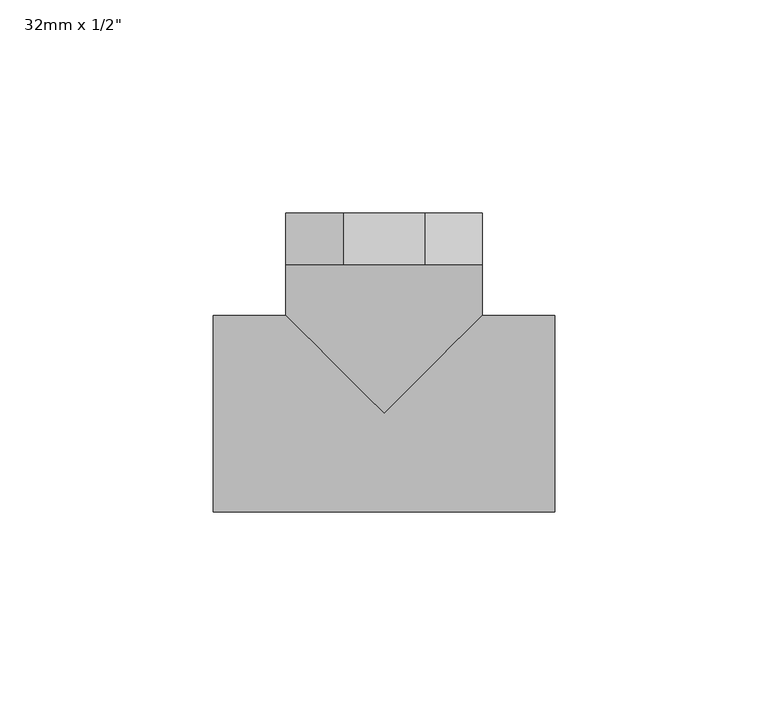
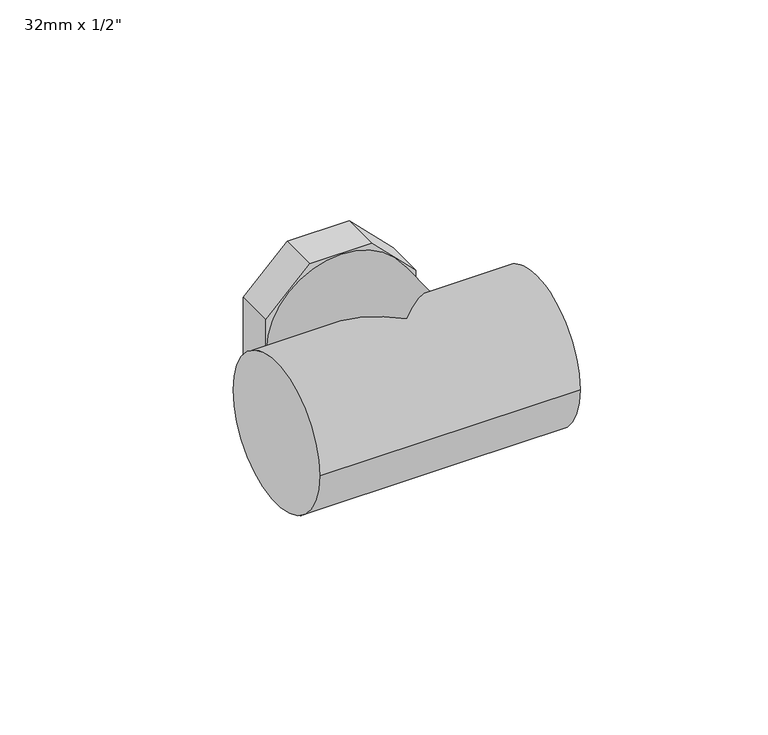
"""IFC4 building model written with IfcOpenShell, lengths in millimetres: pipe fitting geometry."""

from ifc_helpers import new_model, si_unit, frame, origin, place, context, project, spatial, polyline, circle_curve, ellipse_curve, source, transform, mapped, element, save
from ifc_brep_helpers import plane_surface, cylinder_surface, revolved_surface, advanced_brep


def pipe_fitting_5afb52ec(model_context):
    return source(origin(), model_context, "Body", "AdvancedBrep", [
        advanced_brep(
        [(-9.5269119, 47.0, -23.0), (-23.0, 47.0, -9.5269119), (-23.0, 47.0, 9.5269119), (-9.5269119, 47.0, 23.0), (9.5269119, 47.0, 23.0), (23.0, 47.0, 9.5269119), (23.0, 47.0, -9.5269119), (9.5269119, 47.0, -23.0), (-14.0, 47.0, 0.0), (14.0, 47.0, 0.0), (-9.5269119, 35.0, -23.0), (9.5269119, 35.0, -23.0), (23.0, 35.0, -9.5269119), (23.0, 35.0, 9.5269119), (9.5269119, 35.0, 23.0), (-9.5269119, 35.0, 23.0), (-23.0, 35.0, 9.5269119), (-23.0, 35.0, -9.5269119), (10.5, 35.0, 0.0), (-10.5, 35.0, 0.0), (10.5, 46.8, 0.0), (-10.5, 46.8, 0.0), (-14.0, 46.8, 0.0), (14.0, 46.8, 0.0)],
        [
            (0, 1),
            (1, 2),
            (2, 3),
            (3, 4),
            (4, 5),
            (5, 6),
            (6, 7),
            (7, 0),
            (8, 9, circle_curve(frame((0.0, 47.0, 0.0), z_axis=(0.0, -1.0, 0.0), x_axis=(1.0, 0.0, 0.0)), 14.0)),
            (9, 8, circle_curve(frame((0.0, 47.0, 0.0), z_axis=(0.0, -1.0, 0.0), x_axis=(1.0, 0.0, 0.0)), 14.0)),
            (10, 11),
            (11, 12),
            (12, 13),
            (13, 14),
            (14, 15),
            (15, 16),
            (16, 17),
            (17, 10),
            (18, 19, circle_curve(frame((0.0, 35.0, 0.0), z_axis=(0.0, 1.0, 0.0), x_axis=(1.0, 0.0, 0.0)), 10.5)),
            (19, 18, circle_curve(frame((0.0, 35.0, 0.0), z_axis=(0.0, 1.0, 0.0), x_axis=(1.0, 0.0, 0.0)), 10.5)),
            (0, 10),
            (17, 1),
            (16, 2),
            (15, 3),
            (14, 4),
            (13, 5),
            (12, 6),
            (11, 7),
            (18, 20),
            (20, 21, circle_curve(frame((0.0, 46.8, 0.0), z_axis=(0.0, 1.0, 0.0), x_axis=(1.0, 0.0, 0.0)), 10.5)),
            (21, 19),
            (21, 20, circle_curve(frame((0.0, 46.8, 0.0), z_axis=(0.0, 1.0, 0.0), x_axis=(1.0, 0.0, 0.0)), 10.5)),
            (22, 23, circle_curve(frame((0.0, 46.8, 0.0), z_axis=(0.0, 1.0, 0.0), x_axis=(1.0, 0.0, 0.0)), 14.0)),
            (23, 22, circle_curve(frame((0.0, 46.8, 0.0), z_axis=(0.0, 1.0, 0.0), x_axis=(1.0, 0.0, 0.0)), 14.0)),
            (23, 9),
            (8, 22),
        ],
        [
            plane_surface(frame((0.0, 47.0, 0.0), z_axis=(0.0, 1.0, 0.0), x_axis=(0.0, 0.0, 1.0))),
            plane_surface(frame((0.0, 35.0, 0.0), z_axis=(0.0, -1.0, 0.0), x_axis=(0.0, 0.0, 1.0))),
            plane_surface(frame((-9.5269119, 47.0, -23.0), z_axis=(-0.7071067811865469, 0.0, -0.7071067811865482), x_axis=(0.0, -1.0, 0.0))),
            plane_surface(frame((-23.0, 47.0, -9.5269119), z_axis=(-1.0, 0.0, 0.0), x_axis=(0.0, -1.0, 0.0))),
            plane_surface(frame((-23.0, 47.0, 9.5269119), z_axis=(-0.7071067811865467, 0.0, 0.7071067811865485), x_axis=(0.0, -1.0, 0.0))),
            plane_surface(frame((-9.5269119, 47.0, 23.0), z_axis=(0.0, 0.0, 1.0), x_axis=(0.0, -1.0, 0.0))),
            plane_surface(frame((9.5269119, 47.0, 23.0), z_axis=(0.7071067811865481, 0.0, 0.707106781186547), x_axis=(0.0, -1.0, 0.0))),
            plane_surface(frame((23.0, 47.0, 9.5269119), z_axis=(1.0, 0.0, 0.0), x_axis=(0.0, -1.0, 0.0))),
            plane_surface(frame((23.0, 47.0, -9.5269119), z_axis=(0.707106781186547, 0.0, -0.707106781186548), x_axis=(0.0, -1.0, 0.0))),
            plane_surface(frame((9.5269119, 47.0, -23.0), z_axis=(0.0, 0.0, -1.0), x_axis=(0.0, -1.0, 0.0))),
            revolved_surface(polyline([(10.5, 35.0, 0.0), (10.5, 46.8, 0.0)]), (0.0, 47.0, 0.0), (0.0, -1.0, 0.0)),
            plane_surface(frame((14.0, 46.8, 0.0), z_axis=(0.0, 1.0, 0.0), x_axis=(0.0, 0.0, 1.0))),
            revolved_surface(polyline([(14.0, 46.8, 0.0), (14.0, 47.0, 0.0)]), (0.0, 47.0, 0.0), (0.0, -1.0, 0.0)),
        ],
        [
            (0, [[1, 2, 3, 4, 5, 6, 7, 8], [9, 10]]),
            (1, [[11, 12, 13, 14, 15, 16, 17, 18], [19, 20]]),
            (2, [[-1, 21, -18, 22]]),
            (3, [[-2, -22, -17, 23]]),
            (4, [[-3, -23, -16, 24]]),
            (5, [[-4, -24, -15, 25]]),
            (6, [[-5, -25, -14, 26]]),
            (7, [[-6, -26, -13, 27]]),
            (8, [[-7, -27, -12, 28]]),
            (9, [[-8, -28, -11, -21]]),
            (10, [[-19, 29, 30, 31]]),
            (10, [[-20, -31, 32, -29]]),
            (11, [[33, 34], [-30, -32]]),
            (12, [[-34, 35, -9, 36]]),
            (12, [[-33, -36, -10, -35]]),
        ],
    ),
        advanced_brep(
        [(-40.0, -23.0, 0.0), (-40.0, 23.0, 0.0), (40.0, -23.0, 0.0), (40.0, 23.0, 0.0), (23.0, 23.0, 0.0), (0.0, 0.0, 23.0), (-23.0, 23.0, 0.0), (0.0, 0.0, -23.0), (-23.0, 35.0, 0.0), (23.0, 35.0, 0.0), (-10.5, 35.0, 0.0), (10.5, 35.0, 0.0), (-10.5, 0.0, 0.0), (10.5, 0.0, 0.0)],
        [
            (0, 1, circle_curve(frame((-40.0, 0.0, 0.0), z_axis=(-1.0, 0.0, 0.0), x_axis=(0.0, 1.0, 0.0)), 23.0)),
            (1, 0, circle_curve(frame((-40.0, 0.0, 0.0), z_axis=(-1.0, 0.0, 0.0), x_axis=(0.0, 1.0, 0.0)), 23.0)),
            (2, 3, circle_curve(frame((40.0, 0.0, 0.0), z_axis=(1.0, 0.0, 0.0), x_axis=(0.0, 1.0, 0.0)), 23.0)),
            (3, 2, circle_curve(frame((40.0, 0.0, 0.0), z_axis=(1.0, 0.0, 0.0), x_axis=(0.0, 1.0, 0.0)), 23.0)),
            (0, 2),
            (3, 4),
            (4, 5, ellipse_curve(frame((0.0, 0.0, 0.0), z_axis=(0.7071067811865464, -0.7071067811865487, 0.0), x_axis=(-0.7071067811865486, -0.7071067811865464, 0.0)), 32.5269119, 23.0)),
            (5, 6, ellipse_curve(frame((0.0, 0.0, 0.0), z_axis=(-0.7071067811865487, -0.7071067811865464, 0.0), x_axis=(-0.7071067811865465, 0.7071067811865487, 0.0)), 32.5269119, 23.0)),
            (6, 1),
            (6, 7, ellipse_curve(frame((0.0, 0.0, 0.0), z_axis=(-0.7071067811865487, -0.7071067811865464, 0.0), x_axis=(-0.7071067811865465, 0.7071067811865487, 0.0)), 32.5269119, 23.0)),
            (7, 4, ellipse_curve(frame((0.0, 0.0, 0.0), z_axis=(0.7071067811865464, -0.7071067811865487, 0.0), x_axis=(-0.7071067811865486, -0.7071067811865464, 0.0)), 32.5269119, 23.0)),
            (8, 9, circle_curve(frame((0.0, 35.0, 0.0), z_axis=(0.0, 1.0, 0.0), x_axis=(1.0, 0.0, 0.0)), 23.0)),
            (9, 8, circle_curve(frame((0.0, 35.0, 0.0), z_axis=(0.0, 1.0, 0.0), x_axis=(1.0, 0.0, 0.0)), 23.0)),
            (10, 11, circle_curve(frame((0.0, 35.0, 0.0), z_axis=(0.0, -1.0, 0.0), x_axis=(1.0, 0.0, 0.0)), 10.5)),
            (11, 10, circle_curve(frame((0.0, 35.0, 0.0), z_axis=(0.0, -1.0, 0.0), x_axis=(1.0, 0.0, 0.0)), 10.5)),
            (8, 6),
            (4, 9),
            (12, 13, circle_curve(frame((0.0, 0.0, 0.0), z_axis=(0.0, 1.0, 0.0), x_axis=(1.0, 0.0, 0.0)), 10.5)),
            (13, 12, circle_curve(frame((0.0, 0.0, 0.0), z_axis=(0.0, 1.0, 0.0), x_axis=(1.0, 0.0, 0.0)), 10.5)),
            (13, 11),
            (10, 12),
        ],
        [
            plane_surface(frame((-40.0, 0.0, 0.0), z_axis=(-1.0, 0.0, 0.0), x_axis=(0.0, 0.0, 1.0))),
            plane_surface(frame((40.0, 0.0, 0.0), z_axis=(1.0, 0.0, 0.0), x_axis=(0.0, 0.0, 1.0))),
            cylinder_surface(frame((-40.0, 0.0, 0.0), z_axis=(-1.0, 0.0, 0.0), x_axis=(0.0, 1.0, 0.0)), 23.0),
            plane_surface(frame((0.0, 35.0, 0.0), z_axis=(0.0, 1.0, 0.0), x_axis=(0.0, 0.0, 1.0))),
            cylinder_surface(frame((0.0, 35.0, 0.0), z_axis=(0.0, 1.0, 0.0), x_axis=(1.0, 0.0, 0.0)), 23.0),
            plane_surface(frame((10.5, 0.0, 0.0), z_axis=(0.0, 1.0, 0.0), x_axis=(0.0, 0.0, 1.0))),
            revolved_surface(polyline([(10.5, 0.0, 0.0), (10.5, 35.0, 0.0)]), (0.0, 47.0, 0.0), (0.0, -1.0, 0.0)),
        ],
        [
            (0, [[1, 2]]),
            (1, [[3, 4]]),
            (2, [[-1, 5, -4, 6, 7, 8, 9]]),
            (2, [[-2, -9, 10, 11, -6, -3, -5]]),
            (3, [[12, 13], [14, 15]]),
            (4, [[-12, 16, -8, -7, 17]]),
            (4, [[-13, -17, -11, -10, -16]]),
            (5, [[18, 19]]),
            (6, [[-19, 20, -14, 21]]),
            (6, [[-18, -21, -15, -20]]),
        ],
    ),
    ])


if __name__ == "__main__":
    model = new_model("IFC4")
    model_context = context("Model", 3, world=origin())
    ifc_project = project(units=[si_unit("LENGTHUNIT", "METRE", prefix="MILLI")], contexts=[model_context])
    site = spatial("IfcSite", under=ifc_project)
    building = spatial("IfcBuilding", under=site)
    placement = place(None, origin())
    pipe_fitting_shape = pipe_fitting_5afb52ec(model_context)
    element("IfcPipeFitting", 1, ObjectType="PipeFitting_HTA_CPVC_Tees90°WithThreadedBrassInsert : 32mm x 1/2\"", at=placement, inside=building, context=model_context, shape_type="MappedRepresentation", body=[
        mapped(pipe_fitting_shape, transform((0.0, 0.0, 0.0), x_axis=(1.0, 0.0, 0.0), y_axis=(0.0, 1.0, 0.0), z_axis=(0.0, 0.0, 1.0))),
    ])
    save(model, "model.ifc")
